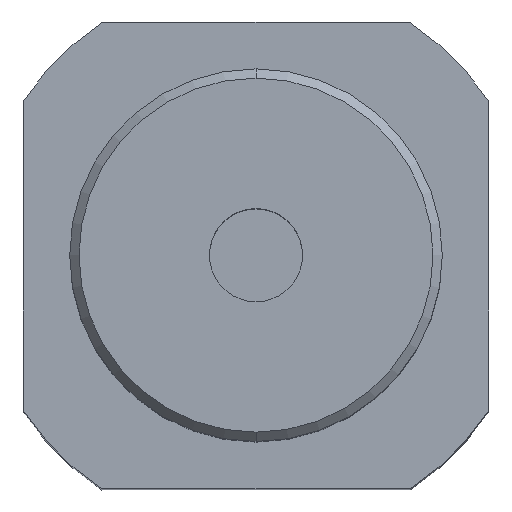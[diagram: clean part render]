
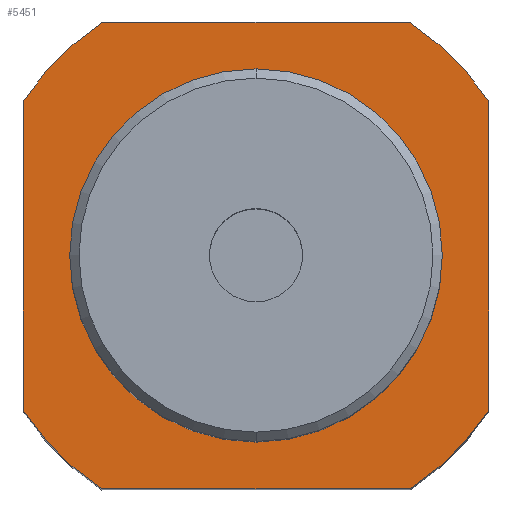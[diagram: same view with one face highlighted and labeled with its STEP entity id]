
A CAD part, top view. The second image highlights one B-rep face of the part: STEP entity #5451.
In plain terms, the highlighted planar face has unit normal (0, 0, 1).
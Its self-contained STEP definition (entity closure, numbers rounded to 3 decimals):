
#167 = LINE ( 'NONE', #3668, #3949 ) ;
#267 = EDGE_LOOP ( 'NONE', ( #3961, #7983 ) ) ;
#394 = ORIENTED_EDGE ( 'NONE', *, *, #6074, .T. ) ;
#407 = VERTEX_POINT ( 'NONE', #1083 ) ;
#466 = VERTEX_POINT ( 'NONE', #6547 ) ;
#567 = CIRCLE ( 'NONE', #7594, 15. ) ;
#637 = CARTESIAN_POINT ( 'NONE',  ( 30.304, 23.947, 10. ) ) ;
#662 = CARTESIAN_POINT ( 'NONE',  ( 17.804, 23.947, 10. ) ) ;
#765 = EDGE_CURVE ( 'NONE', #9170, #4327, #167, .T. ) ;
#942 = LINE ( 'NONE', #2831, #4526 ) ;
#1051 = CIRCLE ( 'NONE', #1970, 15. ) ;
#1083 = CARTESIAN_POINT ( 'NONE',  ( 9.512, 36.447, 10. ) ) ;
#1192 = DIRECTION ( 'NONE',  ( -1., 0., 0. ) ) ;
#1359 = VERTEX_POINT ( 'NONE', #8546 ) ;
#1406 = DIRECTION ( 'NONE',  ( -1., 0., 0. ) ) ;
#1414 = CARTESIAN_POINT ( 'NONE',  ( 7.804, 23.947, 10. ) ) ;
#1551 = AXIS2_PLACEMENT_3D ( 'NONE', #1738, #7069, #2476 ) ;
#1708 = CIRCLE ( 'NONE', #9237, 10. ) ;
#1738 = CARTESIAN_POINT ( 'NONE',  ( 17.804, 23.947, 10. ) ) ;
#1769 = CARTESIAN_POINT ( 'NONE',  ( 26.095, 36.447, 10. ) ) ;
#1888 = CARTESIAN_POINT ( 'NONE',  ( 17.804, 23.947, 10. ) ) ;
#1970 = AXIS2_PLACEMENT_3D ( 'NONE', #2708, #8534, #4261 ) ;
#2054 = DIRECTION ( 'NONE',  ( 0., 0., 1. ) ) ;
#2122 = EDGE_CURVE ( 'NONE', #6443, #1359, #8750, .T. ) ;
#2137 = EDGE_CURVE ( 'NONE', #5939, #407, #942, .T. ) ;
#2195 = EDGE_CURVE ( 'NONE', #8603, #6443, #1051, .T. ) ;
#2263 = VERTEX_POINT ( 'NONE', #1414 ) ;
#2270 = CIRCLE ( 'NONE', #9138, 15. ) ;
#2323 = CARTESIAN_POINT ( 'NONE',  ( 17.804, 23.947, 10. ) ) ;
#2392 = ORIENTED_EDGE ( 'NONE', *, *, #2137, .T. ) ;
#2476 = DIRECTION ( 'NONE',  ( -1., 0., 0. ) ) ;
#2656 = DIRECTION ( 'NONE',  ( 0., 1., 0. ) ) ;
#2691 = VECTOR ( 'NONE', #4540, 1000. ) ;
#2708 = CARTESIAN_POINT ( 'NONE',  ( 17.804, 23.947, 10. ) ) ;
#2831 = CARTESIAN_POINT ( 'NONE',  ( 17.804, 36.447, 10. ) ) ;
#2839 = EDGE_LOOP ( 'NONE', ( #394, #2392, #6460, #4700, #4928, #3121, #3360, #5647 ) ) ;
#2918 = DIRECTION ( 'NONE',  ( 0., -1., 0. ) ) ;
#3091 = DIRECTION ( 'NONE',  ( 0., 1., 0. ) ) ;
#3121 = ORIENTED_EDGE ( 'NONE', *, *, #8581, .T. ) ;
#3360 = ORIENTED_EDGE ( 'NONE', *, *, #2195, .T. ) ;
#3566 = PLANE ( 'NONE',  #9075 ) ;
#3668 = CARTESIAN_POINT ( 'NONE',  ( 5.304, 23.947, 10. ) ) ;
#3949 = VECTOR ( 'NONE', #2918, 1000. ) ;
#3961 = ORIENTED_EDGE ( 'NONE', *, *, #9733, .T. ) ;
#4124 = DIRECTION ( 'NONE',  ( 0., 0., 1. ) ) ;
#4223 = FACE_BOUND ( 'NONE', #267, .T. ) ;
#4261 = DIRECTION ( 'NONE',  ( 0., 1., 0. ) ) ;
#4327 = VERTEX_POINT ( 'NONE', #9207 ) ;
#4526 = VECTOR ( 'NONE', #1192, 1000. ) ;
#4540 = DIRECTION ( 'NONE',  ( 0., 1., 0. ) ) ;
#4700 = ORIENTED_EDGE ( 'NONE', *, *, #765, .T. ) ;
#4928 = ORIENTED_EDGE ( 'NONE', *, *, #9372, .T. ) ;
#5091 = VECTOR ( 'NONE', #6011, 1000. ) ;
#5451 = ADVANCED_FACE ( 'NONE', ( #4223, #8245 ), #3566, .T. ) ;
#5647 = ORIENTED_EDGE ( 'NONE', *, *, #2122, .T. ) ;
#5939 = VERTEX_POINT ( 'NONE', #1769 ) ;
#5986 = DIRECTION ( 'NONE',  ( 0., 0., -1. ) ) ;
#6011 = DIRECTION ( 'NONE',  ( 1., 0., 0. ) ) ;
#6074 = EDGE_CURVE ( 'NONE', #1359, #5939, #2270, .T. ) ;
#6443 = VERTEX_POINT ( 'NONE', #7604 ) ;
#6460 = ORIENTED_EDGE ( 'NONE', *, *, #8269, .T. ) ;
#6547 = CARTESIAN_POINT ( 'NONE',  ( 27.804, 23.947, 10. ) ) ;
#6636 = CARTESIAN_POINT ( 'NONE',  ( 5.304, 11.447, 10. ) ) ;
#6698 = CARTESIAN_POINT ( 'NONE',  ( 17.804, 11.447, 10. ) ) ;
#7069 = DIRECTION ( 'NONE',  ( 0., 0., -1. ) ) ;
#7118 = LINE ( 'NONE', #6698, #5091 ) ;
#7238 = DIRECTION ( 'NONE',  ( 0., 0., 1. ) ) ;
#7391 = DIRECTION ( 'NONE',  ( 1., 0., 0. ) ) ;
#7594 = AXIS2_PLACEMENT_3D ( 'NONE', #1888, #7238, #2656 ) ;
#7604 = CARTESIAN_POINT ( 'NONE',  ( 30.304, 15.656, 10. ) ) ;
#7652 = DIRECTION ( 'NONE',  ( 0., 0., 1. ) ) ;
#7983 = ORIENTED_EDGE ( 'NONE', *, *, #8952, .T. ) ;
#8245 = FACE_OUTER_BOUND ( 'NONE', #2839, .T. ) ;
#8268 = CIRCLE ( 'NONE', #1551, 10. ) ;
#8269 = EDGE_CURVE ( 'NONE', #407, #9170, #567, .T. ) ;
#8270 = CARTESIAN_POINT ( 'NONE',  ( 26.095, 11.447, 10. ) ) ;
#8430 = AXIS2_PLACEMENT_3D ( 'NONE', #8638, #4124, #9383 ) ;
#8453 = CARTESIAN_POINT ( 'NONE',  ( 9.512, 11.447, 10. ) ) ;
#8534 = DIRECTION ( 'NONE',  ( 0., 0., 1. ) ) ;
#8546 = CARTESIAN_POINT ( 'NONE',  ( 30.304, 32.239, 10. ) ) ;
#8581 = EDGE_CURVE ( 'NONE', #9228, #8603, #7118, .T. ) ;
#8603 = VERTEX_POINT ( 'NONE', #8270 ) ;
#8638 = CARTESIAN_POINT ( 'NONE',  ( 17.804, 23.947, 10. ) ) ;
#8750 = LINE ( 'NONE', #637, #2691 ) ;
#8952 = EDGE_CURVE ( 'NONE', #466, #2263, #8268, .T. ) ;
#9047 = CARTESIAN_POINT ( 'NONE',  ( 5.304, 32.239, 10. ) ) ;
#9075 = AXIS2_PLACEMENT_3D ( 'NONE', #6636, #2054, #7391 ) ;
#9138 = AXIS2_PLACEMENT_3D ( 'NONE', #2323, #7652, #3091 ) ;
#9170 = VERTEX_POINT ( 'NONE', #9047 ) ;
#9207 = CARTESIAN_POINT ( 'NONE',  ( 5.304, 15.656, 10. ) ) ;
#9228 = VERTEX_POINT ( 'NONE', #8453 ) ;
#9237 = AXIS2_PLACEMENT_3D ( 'NONE', #662, #5986, #1406 ) ;
#9372 = EDGE_CURVE ( 'NONE', #4327, #9228, #9737, .T. ) ;
#9383 = DIRECTION ( 'NONE',  ( 0., 1., 0. ) ) ;
#9733 = EDGE_CURVE ( 'NONE', #2263, #466, #1708, .T. ) ;
#9737 = CIRCLE ( 'NONE', #8430, 15. ) ;
